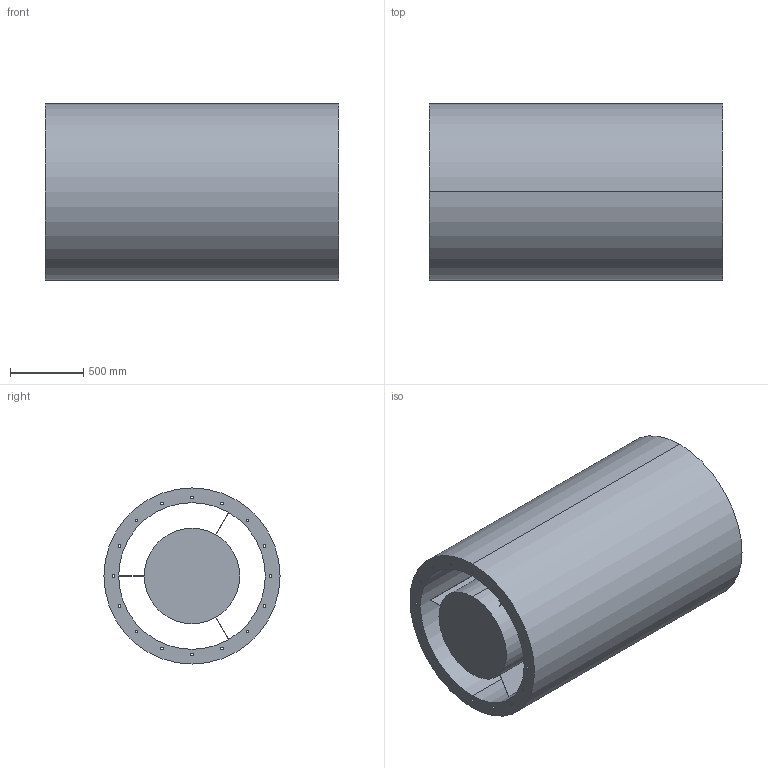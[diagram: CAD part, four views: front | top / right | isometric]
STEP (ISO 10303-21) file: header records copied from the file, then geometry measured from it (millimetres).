
FILE_DESCRIPTION(('STEP AP214'),'1');
FILE_NAME('accessory_5211816000.stp','2017-10-09T11:37:40',('TraceParts'),('TraceParts S.A.'),'Spatial InterOp 3D',' ',' ');
FILE_SCHEMA(('automotive_design'));
Length unit declared in the file: millimetre
Products named in the file (1): accessory_5211816000
Bounding box: 2000 x 1200 x 1200 mm (x, y, z)
Volume: 1277106861 mm3; surface area: 22259170.2 mm2
Topology: 1 solids, 1 shells, 56 faces, 155 edges, 103 vertices
Faces by surface type: cylinder 38, plane 16, torus 2
Entity records: 2384 total; most frequent: DIRECTION 362, CARTESIAN_POINT 315, ORIENTED_EDGE 310, EDGE_CURVE 155, AXIS2_PLACEMENT_3D 150, VERTEX_POINT 103, EDGE_LOOP 96, CIRCLE 93
